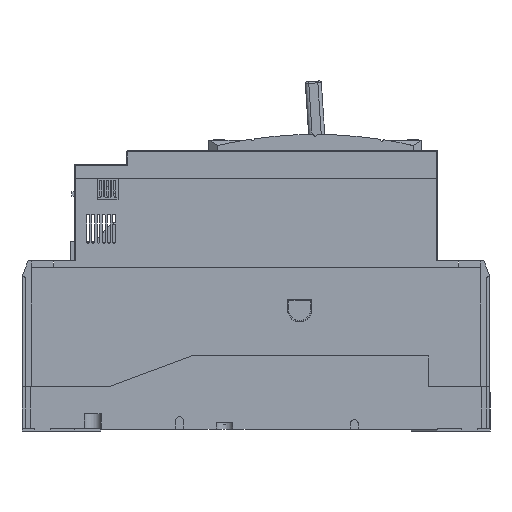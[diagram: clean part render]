
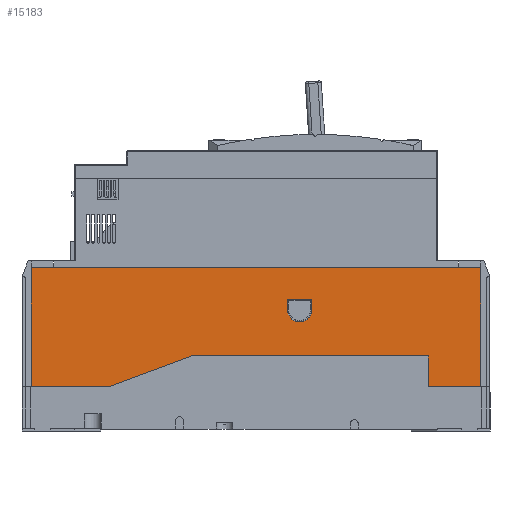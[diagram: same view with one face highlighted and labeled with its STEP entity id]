
A CAD part, left-side view. The second image highlights one B-rep face of the part: STEP entity #15183.
In plain terms, the highlighted planar face has unit normal (-1, 0, 0).
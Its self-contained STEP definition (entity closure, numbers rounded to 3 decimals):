
#8132 = DIRECTION ( 'NONE',  ( 0., 0., 1. ) ) ;
#12223 = LINE ( 'NONE', #208349, #204578 ) ;
#13864 = EDGE_LOOP ( 'NONE', ( #77241, #44533, #266545, #243236, #81737, #235721, #47589, #201022 ) ) ;
#14737 = EDGE_CURVE ( 'NONE', #44022, #148768, #128353, .T. ) ;
#15183 = ADVANCED_FACE ( 'NONE', ( #155790, #127795 ), #98722, .T. ) ;
#16474 = VERTEX_POINT ( 'NONE', #227815 ) ;
#18506 = EDGE_CURVE ( 'NONE', #148768, #71320, #151737, .T. ) ;
#25281 = EDGE_LOOP ( 'NONE', ( #71497, #169630, #196249, #256194 ) ) ;
#27116 = CARTESIAN_POINT ( 'NONE',  ( -350.2, 20.5, -93.1 ) ) ;
#30288 = DIRECTION ( 'NONE',  ( -1., 0., 0. ) ) ;
#32613 = CARTESIAN_POINT ( 'NONE',  ( -350.2, -9.8, -25.1 ) ) ;
#33956 = VECTOR ( 'NONE', #228475, 1000. ) ;
#34748 = LINE ( 'NONE', #70328, #213027 ) ;
#44022 = VERTEX_POINT ( 'NONE', #138599 ) ;
#44533 = ORIENTED_EDGE ( 'NONE', *, *, #223608, .T. ) ;
#47589 = ORIENTED_EDGE ( 'NONE', *, *, #128595, .T. ) ;
#50938 = CARTESIAN_POINT ( 'NONE',  ( -350.2, 20.5, -75.6 ) ) ;
#57717 = CARTESIAN_POINT ( 'NONE',  ( -350.2, 203., -93.1 ) ) ;
#63901 = CARTESIAN_POINT ( 'NONE',  ( -350.2, 87.008, -49.088 ) ) ;
#64646 = EDGE_CURVE ( 'NONE', #136090, #16474, #12223, .T. ) ;
#66633 = DIRECTION ( 'NONE',  ( 0., 1., 0. ) ) ;
#68426 = EDGE_CURVE ( 'NONE', #138689, #275883, #90528, .T. ) ;
#68827 = DIRECTION ( 'NONE',  ( 0., 1., 0. ) ) ;
#70131 = CIRCLE ( 'NONE', #259469, 7. ) ;
#70328 = CARTESIAN_POINT ( 'NONE',  ( -350.2, 119., -93.1 ) ) ;
#71320 = VERTEX_POINT ( 'NONE', #140596 ) ;
#71497 = ORIENTED_EDGE ( 'NONE', *, *, #224783, .F. ) ;
#72348 = DIRECTION ( 'NONE',  ( 0., 0., -1. ) ) ;
#73368 = CARTESIAN_POINT ( 'NONE',  ( -350.2, 247.8, -25.1 ) ) ;
#77241 = ORIENTED_EDGE ( 'NONE', *, *, #68426, .T. ) ;
#81737 = ORIENTED_EDGE ( 'NONE', *, *, #18506, .T. ) ;
#88456 = DIRECTION ( 'NONE',  ( -1., 0., 0. ) ) ;
#89561 = DIRECTION ( 'NONE',  ( 0., 0., 1. ) ) ;
#90330 = EDGE_CURVE ( 'NONE', #16474, #188896, #70131, .T. ) ;
#90528 = LINE ( 'NONE', #274788, #167248 ) ;
#92579 = CARTESIAN_POINT ( 'NONE',  ( -350.2, 20.5, -75.6 ) ) ;
#92895 = DIRECTION ( 'NONE',  ( 0., -1., 0. ) ) ;
#98722 = PLANE ( 'NONE',  #175129 ) ;
#101032 = VECTOR ( 'NONE', #66633, 1000. ) ;
#103928 = LINE ( 'NONE', #50938, #177342 ) ;
#104588 = EDGE_CURVE ( 'NONE', #44022, #194467, #277063, .T. ) ;
#125338 = LINE ( 'NONE', #245710, #265189 ) ;
#127648 = CARTESIAN_POINT ( 'NONE',  ( -350.2, 101.008, -43.188 ) ) ;
#127795 = FACE_BOUND ( 'NONE', #25281, .T. ) ;
#128353 = LINE ( 'NONE', #186919, #142285 ) ;
#128430 = DIRECTION ( 'NONE',  ( 0., 1., 0. ) ) ;
#128595 = EDGE_CURVE ( 'NONE', #134117, #138064, #103928, .T. ) ;
#134117 = VERTEX_POINT ( 'NONE', #92579 ) ;
#134394 = CARTESIAN_POINT ( 'NONE',  ( -350.2, 247.8, -93.1 ) ) ;
#136090 = VERTEX_POINT ( 'NONE', #127648 ) ;
#138064 = VERTEX_POINT ( 'NONE', #27116 ) ;
#138599 = CARTESIAN_POINT ( 'NONE',  ( -350.2, 247.8, -93.1 ) ) ;
#138689 = VERTEX_POINT ( 'NONE', #207629 ) ;
#140596 = CARTESIAN_POINT ( 'NONE',  ( -350.2, 156., -75.6 ) ) ;
#142285 = VECTOR ( 'NONE', #142904, 1000. ) ;
#142904 = DIRECTION ( 'NONE',  ( 0., -1., 0. ) ) ;
#145283 = VERTEX_POINT ( 'NONE', #183092 ) ;
#148768 = VERTEX_POINT ( 'NONE', #270365 ) ;
#151737 = LINE ( 'NONE', #57717, #218146 ) ;
#155790 = FACE_OUTER_BOUND ( 'NONE', #13864, .T. ) ;
#167248 = VECTOR ( 'NONE', #8132, 1000. ) ;
#169630 = ORIENTED_EDGE ( 'NONE', *, *, #90330, .F. ) ;
#175129 = AXIS2_PLACEMENT_3D ( 'NONE', #187514, #30288, #272565 ) ;
#177172 = CARTESIAN_POINT ( 'NONE',  ( -350.2, 20.5, -75.6 ) ) ;
#177342 = VECTOR ( 'NONE', #72348, 1000. ) ;
#183092 = CARTESIAN_POINT ( 'NONE',  ( -350.2, 87.008, -43.188 ) ) ;
#185831 = DIRECTION ( 'NONE',  ( 0., 0., -1. ) ) ;
#186919 = CARTESIAN_POINT ( 'NONE',  ( -350.2, 119., -93.1 ) ) ;
#187514 = CARTESIAN_POINT ( 'NONE',  ( -350.2, 119., -93.1 ) ) ;
#188896 = VERTEX_POINT ( 'NONE', #63901 ) ;
#193335 = VECTOR ( 'NONE', #89561, 1000. ) ;
#194467 = VERTEX_POINT ( 'NONE', #73368 ) ;
#196249 = ORIENTED_EDGE ( 'NONE', *, *, #64646, .F. ) ;
#197162 = EDGE_CURVE ( 'NONE', #134117, #71320, #198782, .T. ) ;
#198782 = LINE ( 'NONE', #177172, #212718 ) ;
#201022 = ORIENTED_EDGE ( 'NONE', *, *, #244619, .T. ) ;
#204578 = VECTOR ( 'NONE', #185831, 1000. ) ;
#207629 = CARTESIAN_POINT ( 'NONE',  ( -350.2, -9.8, -93.1 ) ) ;
#208349 = CARTESIAN_POINT ( 'NONE',  ( -350.2, 101.008, -93.1 ) ) ;
#212718 = VECTOR ( 'NONE', #128430, 1000. ) ;
#213027 = VECTOR ( 'NONE', #92895, 1000. ) ;
#218146 = VECTOR ( 'NONE', #254137, 1000. ) ;
#223608 = EDGE_CURVE ( 'NONE', #275883, #194467, #125338, .T. ) ;
#224783 = EDGE_CURVE ( 'NONE', #188896, #145283, #278623, .T. ) ;
#227488 = CARTESIAN_POINT ( 'NONE',  ( -350.2, 87.008, -93.1 ) ) ;
#227815 = CARTESIAN_POINT ( 'NONE',  ( -350.2, 101.008, -49.088 ) ) ;
#228475 = DIRECTION ( 'NONE',  ( 0., 0., 1. ) ) ;
#235721 = ORIENTED_EDGE ( 'NONE', *, *, #197162, .F. ) ;
#242813 = DIRECTION ( 'NONE',  ( 0., 0., 1. ) ) ;
#243236 = ORIENTED_EDGE ( 'NONE', *, *, #14737, .T. ) ;
#244619 = EDGE_CURVE ( 'NONE', #138064, #138689, #34748, .T. ) ;
#245710 = CARTESIAN_POINT ( 'NONE',  ( -350.2, 119., -25.1 ) ) ;
#252965 = EDGE_CURVE ( 'NONE', #145283, #136090, #272264, .T. ) ;
#254137 = DIRECTION ( 'NONE',  ( 0., -0.937, 0.349 ) ) ;
#256194 = ORIENTED_EDGE ( 'NONE', *, *, #252965, .F. ) ;
#259469 = AXIS2_PLACEMENT_3D ( 'NONE', #265194, #88456, #242813 ) ;
#265189 = VECTOR ( 'NONE', #68827, 1000. ) ;
#265194 = CARTESIAN_POINT ( 'NONE',  ( -350.2, 94.008, -49.088 ) ) ;
#266545 = ORIENTED_EDGE ( 'NONE', *, *, #104588, .F. ) ;
#270365 = CARTESIAN_POINT ( 'NONE',  ( -350.2, 203., -93.1 ) ) ;
#272264 = LINE ( 'NONE', #287464, #101032 ) ;
#272565 = DIRECTION ( 'NONE',  ( 0., 0., 1. ) ) ;
#274788 = CARTESIAN_POINT ( 'NONE',  ( -350.2, -9.8, -93.1 ) ) ;
#275883 = VERTEX_POINT ( 'NONE', #32613 ) ;
#277063 = LINE ( 'NONE', #134394, #193335 ) ;
#278623 = LINE ( 'NONE', #227488, #33956 ) ;
#287464 = CARTESIAN_POINT ( 'NONE',  ( -350.2, 87.108, -43.188 ) ) ;
